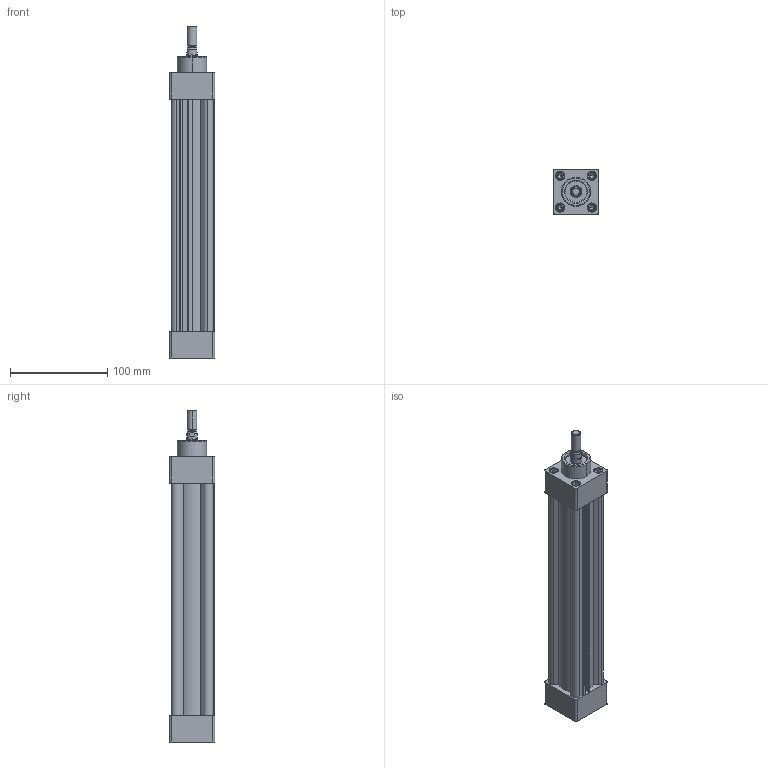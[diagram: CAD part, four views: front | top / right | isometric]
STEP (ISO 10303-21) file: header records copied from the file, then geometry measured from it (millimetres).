
FILE_DESCRIPTION (( 'STEP AP214' ), '1' );
FILE_NAME ('WSI-032-0200 (MDMY).STEP', '2016-07-13T09:57:17', ( 'Hidtek' ), ( '' ), 'SwSTEP 2.0', 'SolidWorks 2016', '' );
FILE_SCHEMA (( 'AUTOMOTIVE_DESIGN' ));
Length unit declared in the file: millimetre
Products named in the file (3): WSI-032-0200 (MDMY); Group1^WSI-032-0200 (MDMY); Group2^WSI-032-0200 (MDMY)
Assembly tree (2 placements, depth 2):
  WSI-032-0200 (MDMY)
    Group1^WSI-032-0200 (MDMY)
    Group2^WSI-032-0200 (MDMY)
Bounding box: 46.5 x 46.5 x 341.2 mm (x, y, z)
Volume: 346190.6 mm3; surface area: 124332.8 mm2
Topology: 12 solids, 12 shells, 384 faces, 916 edges, 588 vertices
Faces by surface type: plane 227, cylinder 103, cone 50, torus 4
Entity records: 11801 total; most frequent: CARTESIAN_POINT 2233, DIRECTION 1880, ORIENTED_EDGE 1816, EDGE_CURVE 908, AXIS2_PLACEMENT_3D 655, VERTEX_POINT 588, VECTOR 570, LINE 570
